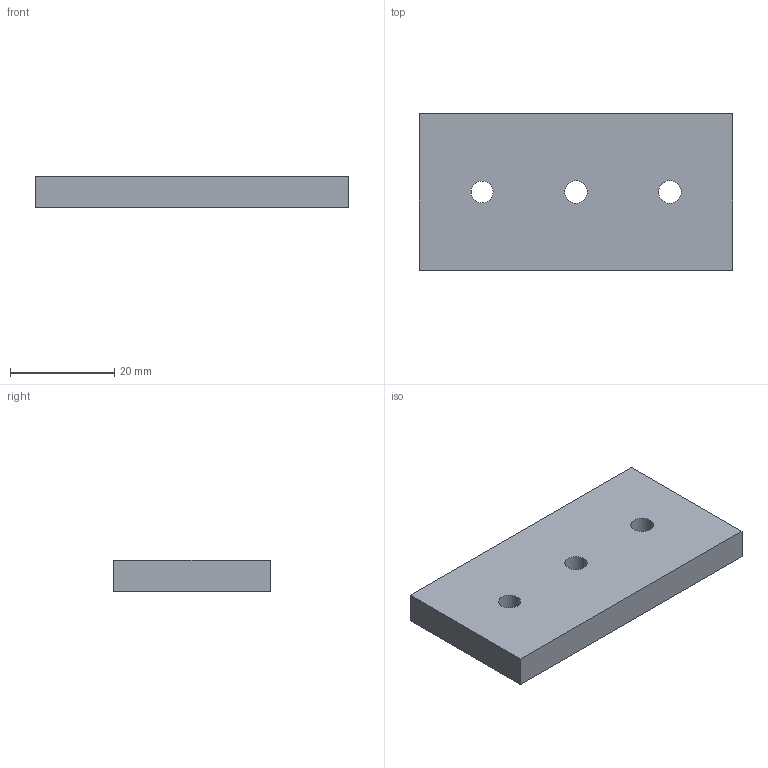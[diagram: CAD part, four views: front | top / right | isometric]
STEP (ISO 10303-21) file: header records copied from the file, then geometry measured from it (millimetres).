
FILE_DESCRIPTION(('Open CASCADE Model'),'2;1');
FILE_NAME('CP-SCZ-HOLES','2026-11-15T22:30:29',('Author'),( 'Open CASCADE'),'Open CASCADE STEP processor 8.0','build123d', 'Unknown');
FILE_SCHEMA(('AUTOMOTIVE_DESIGN { 1 0 10303 214 1 1 1 1 }'));
Length unit declared in the file: millimetre
Products named in the file (1): CP-SCZ-HOLES
Bounding box: 60 x 30 x 6 mm (x, y, z)
Volume: 10538.5 mm3; surface area: 4836 mm2
Topology: 1 solids, 1 shells, 9 faces, 21 edges, 14 vertices
Faces by surface type: plane 6, cylinder 3
Full cylindrical faces by diameter (mm): 4.2 x1, 4.3 x1, 4.4 x1
Entity records: 556 total; most frequent: DIRECTION 89, CARTESIAN_POINT 87, LINE 51, VECTOR 51, ORIENTED_EDGE 42, PCURVE 42, DEFINITIONAL_REPRESENTATION 42, EDGE_CURVE 21
